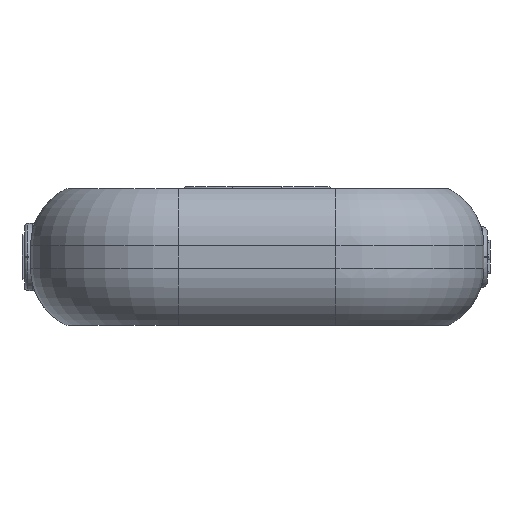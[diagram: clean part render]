
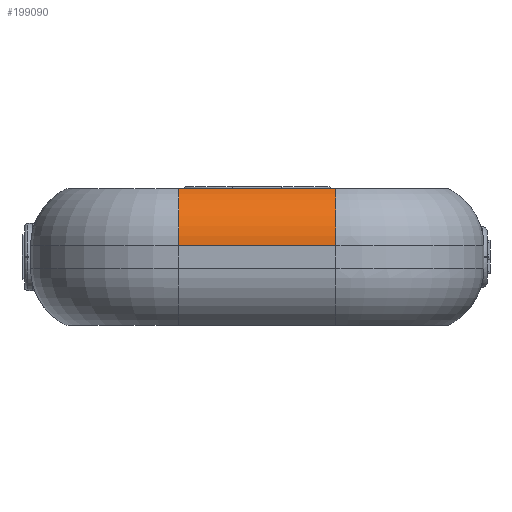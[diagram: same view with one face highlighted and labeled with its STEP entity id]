
A CAD part, front view. The second image highlights one B-rep face of the part: STEP entity #199090.
In plain terms, the highlighted cylindrical face has radius 11.35 mm (diameter 22.7 mm), a partial arc.
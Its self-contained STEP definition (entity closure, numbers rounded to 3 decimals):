
#195837 = TOROIDAL_SURFACE('',#195838,15.,11.35);
#195838 = AXIS2_PLACEMENT_3D('',#195839,#195840,#195841);
#195839 = CARTESIAN_POINT('',(-14.,-50.,-10.));
#195840 = DIRECTION('',(0.,0.,1.));
#195841 = DIRECTION('',(0.,-1.,0.));
#198096 = EDGE_CURVE('',#198097,#198099,#198101,.T.);
#198097 = VERTEX_POINT('',#198098);
#198098 = CARTESIAN_POINT('',(-14.,-76.35,-10.));
#198099 = VERTEX_POINT('',#198100);
#198100 = CARTESIAN_POINT('',(-14.,-70.,0.189));
#198101 = SURFACE_CURVE('',#198102,(#198107,#198113),.PCURVE_S1.);
#198102 = CIRCLE('',#198103,11.35);
#198103 = AXIS2_PLACEMENT_3D('',#198104,#198105,#198106);
#198104 = CARTESIAN_POINT('',(-14.,-65.,-10.));
#198105 = DIRECTION('',(-1.,-0.,0.));
#198106 = DIRECTION('',(0.,-1.,0.));
#198107 = PCURVE('',#195837,#198108);
#198108 = DEFINITIONAL_REPRESENTATION('',(#198109),#198112);
#198109 = B_SPLINE_CURVE_WITH_KNOTS('',1,(#198110,#198111),
  .UNSPECIFIED.,.F.,.F.,(2,2),(0.,1.571),
  .PIECEWISE_BEZIER_KNOTS.);
#198110 = CARTESIAN_POINT('',(0.,0.));
#198111 = CARTESIAN_POINT('',(0.,1.571));
#198112 = ( GEOMETRIC_REPRESENTATION_CONTEXT(2) 
PARAMETRIC_REPRESENTATION_CONTEXT() REPRESENTATION_CONTEXT('2D SPACE',''
  ) );
#198113 = PCURVE('',#198114,#198119);
#198114 = CYLINDRICAL_SURFACE('',#198115,11.35);
#198115 = AXIS2_PLACEMENT_3D('',#198116,#198117,#198118);
#198116 = CARTESIAN_POINT('',(14.,-65.,-10.));
#198117 = DIRECTION('',(-1.,-0.,-0.));
#198118 = DIRECTION('',(0.,-1.,0.));
#198119 = DEFINITIONAL_REPRESENTATION('',(#198120),#198123);
#198120 = B_SPLINE_CURVE_WITH_KNOTS('',1,(#198121,#198122),
  .UNSPECIFIED.,.F.,.F.,(2,2),(0.,1.571),
  .PIECEWISE_BEZIER_KNOTS.);
#198121 = CARTESIAN_POINT('',(0.,28.));
#198122 = CARTESIAN_POINT('',(1.571,28.));
#198123 = ( GEOMETRIC_REPRESENTATION_CONTEXT(2) 
PARAMETRIC_REPRESENTATION_CONTEXT() REPRESENTATION_CONTEXT('2D SPACE',''
  ) );
#198463 = PLANE('',#198464);
#198464 = AXIS2_PLACEMENT_3D('',#198465,#198466,#198467);
#198465 = CARTESIAN_POINT('',(-14.,-76.35,-25.35));
#198466 = DIRECTION('',(0.,1.,0.));
#198467 = DIRECTION('',(1.,0.,0.));
#199079 = PLANE('',#199080);
#199080 = AXIS2_PLACEMENT_3D('',#199081,#199082,#199083);
#199081 = CARTESIAN_POINT('',(-14.,-70.,-40.));
#199082 = DIRECTION('',(0.,1.,0.));
#199083 = DIRECTION('',(1.,0.,0.));
#199090 = ADVANCED_FACE('',(#199091),#198114,.T.);
#199091 = FACE_BOUND('',#199092,.T.);
#199092 = EDGE_LOOP('',(#199093,#199116,#199143,#199162));
#199093 = ORIENTED_EDGE('',*,*,#199094,.F.);
#199094 = EDGE_CURVE('',#199095,#198097,#199097,.T.);
#199095 = VERTEX_POINT('',#199096);
#199096 = CARTESIAN_POINT('',(14.,-76.35,-10.));
#199097 = SURFACE_CURVE('',#199098,(#199102,#199109),.PCURVE_S1.);
#199098 = LINE('',#199099,#199100);
#199099 = CARTESIAN_POINT('',(14.,-76.35,-10.));
#199100 = VECTOR('',#199101,1.);
#199101 = DIRECTION('',(-1.,-0.,-0.));
#199102 = PCURVE('',#198114,#199103);
#199103 = DEFINITIONAL_REPRESENTATION('',(#199104),#199108);
#199104 = LINE('',#199105,#199106);
#199105 = CARTESIAN_POINT('',(0.,0.));
#199106 = VECTOR('',#199107,1.);
#199107 = DIRECTION('',(0.,1.));
#199108 = ( GEOMETRIC_REPRESENTATION_CONTEXT(2) 
PARAMETRIC_REPRESENTATION_CONTEXT() REPRESENTATION_CONTEXT('2D SPACE',''
  ) );
#199109 = PCURVE('',#198463,#199110);
#199110 = DEFINITIONAL_REPRESENTATION('',(#199111),#199115);
#199111 = LINE('',#199112,#199113);
#199112 = CARTESIAN_POINT('',(28.,-15.35));
#199113 = VECTOR('',#199114,1.);
#199114 = DIRECTION('',(-1.,0.));
#199115 = ( GEOMETRIC_REPRESENTATION_CONTEXT(2) 
PARAMETRIC_REPRESENTATION_CONTEXT() REPRESENTATION_CONTEXT('2D SPACE',''
  ) );
#199116 = ORIENTED_EDGE('',*,*,#199117,.T.);
#199117 = EDGE_CURVE('',#199095,#199118,#199120,.T.);
#199118 = VERTEX_POINT('',#199119);
#199119 = CARTESIAN_POINT('',(14.,-70.,0.189));
#199120 = SURFACE_CURVE('',#199121,(#199126,#199132),.PCURVE_S1.);
#199121 = CIRCLE('',#199122,11.35);
#199122 = AXIS2_PLACEMENT_3D('',#199123,#199124,#199125);
#199123 = CARTESIAN_POINT('',(14.,-65.,-10.));
#199124 = DIRECTION('',(-1.,0.,0.));
#199125 = DIRECTION('',(0.,-1.,-0.));
#199126 = PCURVE('',#198114,#199127);
#199127 = DEFINITIONAL_REPRESENTATION('',(#199128),#199131);
#199128 = B_SPLINE_CURVE_WITH_KNOTS('',1,(#199129,#199130),
  .UNSPECIFIED.,.F.,.F.,(2,2),(0.,1.571),
  .PIECEWISE_BEZIER_KNOTS.);
#199129 = CARTESIAN_POINT('',(0.,0.));
#199130 = CARTESIAN_POINT('',(1.571,0.));
#199131 = ( GEOMETRIC_REPRESENTATION_CONTEXT(2) 
PARAMETRIC_REPRESENTATION_CONTEXT() REPRESENTATION_CONTEXT('2D SPACE',''
  ) );
#199132 = PCURVE('',#199133,#199138);
#199133 = TOROIDAL_SURFACE('',#199134,15.,11.35);
#199134 = AXIS2_PLACEMENT_3D('',#199135,#199136,#199137);
#199135 = CARTESIAN_POINT('',(14.,-50.,-10.));
#199136 = DIRECTION('',(0.,0.,1.));
#199137 = DIRECTION('',(1.,0.,-0.));
#199138 = DEFINITIONAL_REPRESENTATION('',(#199139),#199142);
#199139 = B_SPLINE_CURVE_WITH_KNOTS('',1,(#199140,#199141),
  .UNSPECIFIED.,.F.,.F.,(2,2),(0.,1.571),
  .PIECEWISE_BEZIER_KNOTS.);
#199140 = CARTESIAN_POINT('',(-1.571,0.));
#199141 = CARTESIAN_POINT('',(-1.571,1.571));
#199142 = ( GEOMETRIC_REPRESENTATION_CONTEXT(2) 
PARAMETRIC_REPRESENTATION_CONTEXT() REPRESENTATION_CONTEXT('2D SPACE',''
  ) );
#199143 = ORIENTED_EDGE('',*,*,#199144,.T.);
#199144 = EDGE_CURVE('',#199118,#198099,#199145,.T.);
#199145 = SURFACE_CURVE('',#199146,(#199150,#199156),.PCURVE_S1.);
#199146 = LINE('',#199147,#199148);
#199147 = CARTESIAN_POINT('',(14.,-70.,0.189));
#199148 = VECTOR('',#199149,1.);
#199149 = DIRECTION('',(-1.,-0.,-0.));
#199150 = PCURVE('',#198114,#199151);
#199151 = DEFINITIONAL_REPRESENTATION('',(#199152),#199155);
#199152 = B_SPLINE_CURVE_WITH_KNOTS('',1,(#199153,#199154),
  .UNSPECIFIED.,.F.,.F.,(2,2),(0.,28.),
  .PIECEWISE_BEZIER_KNOTS.);
#199153 = CARTESIAN_POINT('',(1.115,0.));
#199154 = CARTESIAN_POINT('',(1.115,28.));
#199155 = ( GEOMETRIC_REPRESENTATION_CONTEXT(2) 
PARAMETRIC_REPRESENTATION_CONTEXT() REPRESENTATION_CONTEXT('2D SPACE',''
  ) );
#199156 = PCURVE('',#199079,#199157);
#199157 = DEFINITIONAL_REPRESENTATION('',(#199158),#199161);
#199158 = B_SPLINE_CURVE_WITH_KNOTS('',1,(#199159,#199160),
  .UNSPECIFIED.,.F.,.F.,(2,2),(0.,28.),
  .PIECEWISE_BEZIER_KNOTS.);
#199159 = CARTESIAN_POINT('',(28.,-40.189));
#199160 = CARTESIAN_POINT('',(0.,-40.189));
#199161 = ( GEOMETRIC_REPRESENTATION_CONTEXT(2) 
PARAMETRIC_REPRESENTATION_CONTEXT() REPRESENTATION_CONTEXT('2D SPACE',''
  ) );
#199162 = ORIENTED_EDGE('',*,*,#198096,.F.);
